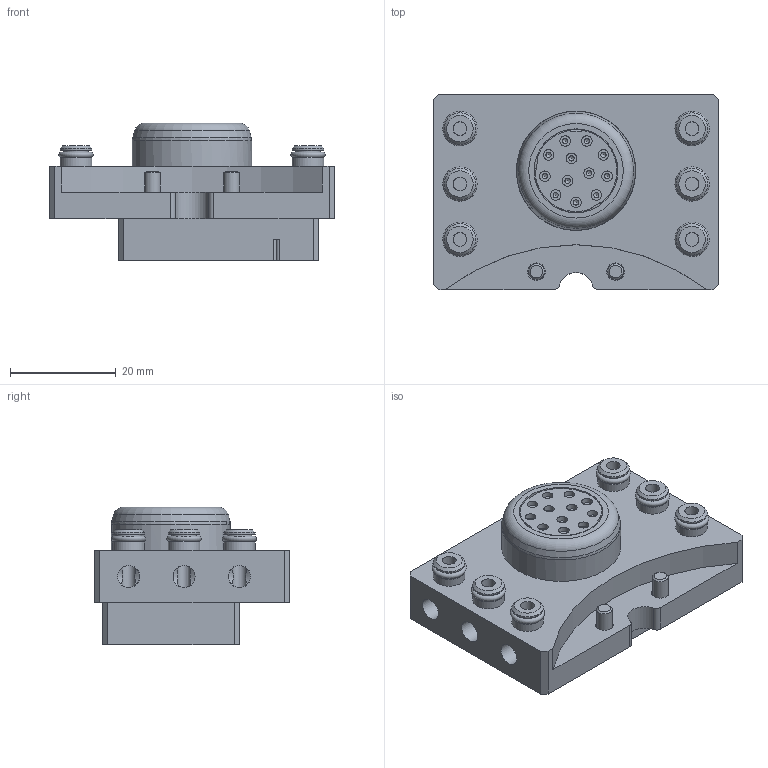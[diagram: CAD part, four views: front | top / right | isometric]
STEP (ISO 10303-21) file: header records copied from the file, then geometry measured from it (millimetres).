
FILE_DESCRIPTION(/* description */ (''),/* implementation_level */ '2;1');
FILE_NAME(/* name */ '\\dc01\daten\CAD\Standard\Daten\3D-Datenbank\Webseite 2020\MGW\MGW080\G-MEK080-U-6PM5-1E12.stp',/* time_stamp */ '2020-05-11T11:43:21+02:00',/* author */ ('ysplieth'),/* organization */ (''),/* preprocessor_version */ 'ST-DEVELOPER v17',/* originating_system */ 'Autodesk Inventor 2018',/* authorisation */ '');
FILE_SCHEMA (('AUTOMOTIVE_DESIGN { 1 0 10303 214 3 1 1 }'));
Length unit declared in the file: millimetre
Products named in the file (1): Bauteil2
Bounding box: 54 x 37 x 26.1 mm (x, y, z)
Volume: 25685.3 mm3; surface area: 14424.8 mm2
Topology: 1 solids, 5 shells, 452 faces, 1310 edges, 872 vertices
Faces by surface type: plane 193, cylinder 150, cone 72, torus 37
Full cylindrical faces by diameter (mm): 1 x12, 1.6 x12, 2 x25, 2.5 x2, 2.6 x6, 3 x6, 3.3 x2, 3.4 x4, 4.2 x6, 4.6 x12, 5.5 x4, 6 x19, 14 x1, 15.9 x1, 17 x1, 17.1 x1, 18.2 x1, 19 x1, 22.6 x1
Entity records: 17113 total; most frequent: CARTESIAN_POINT 4497, DIRECTION 2609, ORIENTED_EDGE 2518, EDGE_CURVE 1259, AXIS2_PLACEMENT_3D 1041, VERTEX_POINT 856, CIRCLE 588, EDGE_LOOP 563
